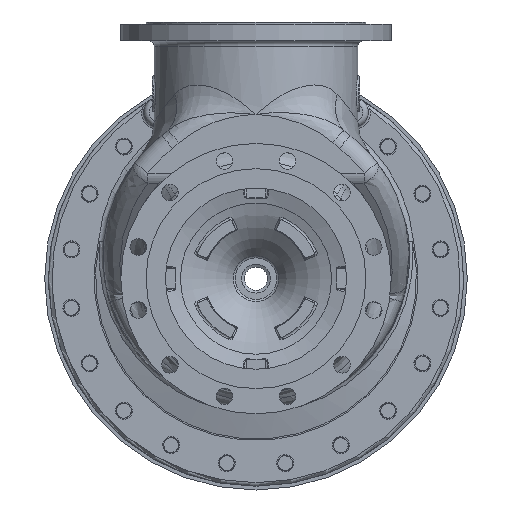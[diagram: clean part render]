
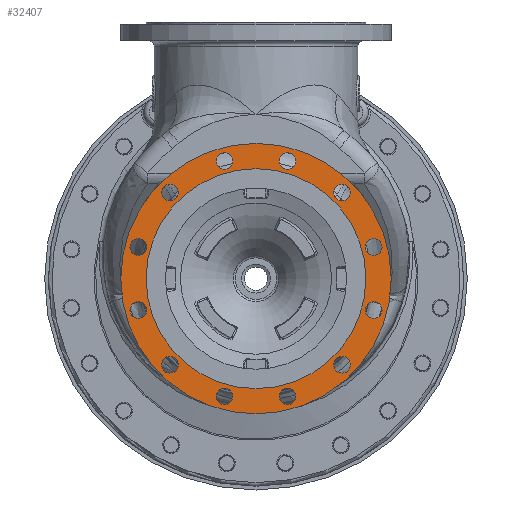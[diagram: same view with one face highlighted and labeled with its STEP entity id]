
A CAD part, front view. The second image highlights one B-rep face of the part: STEP entity #32407.
In plain terms, the highlighted planar face has unit normal (0, -1, 0) as drawn and (0, 0, -1) by its records, which use the part's own axes.
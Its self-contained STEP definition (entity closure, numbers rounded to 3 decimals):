
#6530=FACE_BOUND('',#9738,.T.);
#6531=FACE_BOUND('',#9739,.T.);
#6532=FACE_BOUND('',#9740,.T.);
#6533=FACE_BOUND('',#9741,.T.);
#6534=FACE_BOUND('',#9742,.T.);
#6535=FACE_BOUND('',#9743,.T.);
#6536=FACE_BOUND('',#9744,.T.);
#6537=FACE_BOUND('',#9745,.T.);
#6538=FACE_BOUND('',#9746,.T.);
#6539=FACE_BOUND('',#9747,.T.);
#6540=FACE_BOUND('',#9748,.T.);
#6541=FACE_BOUND('',#9749,.T.);
#6542=FACE_BOUND('',#9750,.T.);
#7796=FACE_OUTER_BOUND('',#9737,.T.);
#9737=EDGE_LOOP('',(#27538));
#9738=EDGE_LOOP('',(#27539));
#9739=EDGE_LOOP('',(#27540));
#9740=EDGE_LOOP('',(#27541));
#9741=EDGE_LOOP('',(#27542));
#9742=EDGE_LOOP('',(#27543));
#9743=EDGE_LOOP('',(#27544));
#9744=EDGE_LOOP('',(#27545));
#9745=EDGE_LOOP('',(#27546));
#9746=EDGE_LOOP('',(#27547));
#9747=EDGE_LOOP('',(#27548));
#9748=EDGE_LOOP('',(#27549));
#9749=EDGE_LOOP('',(#27550));
#9750=EDGE_LOOP('',(#27551));
#12304=CIRCLE('',#35971,14.);
#12306=CIRCLE('',#35974,14.);
#12308=CIRCLE('',#35977,14.);
#12310=CIRCLE('',#35980,14.);
#12312=CIRCLE('',#35983,14.);
#12314=CIRCLE('',#35986,14.);
#12316=CIRCLE('',#35989,14.);
#12318=CIRCLE('',#35992,14.);
#12320=CIRCLE('',#35995,14.);
#12322=CIRCLE('',#35998,14.);
#12324=CIRCLE('',#36001,14.);
#12326=CIRCLE('',#36004,14.);
#12369=CIRCLE('',#36052,185.);
#12371=CIRCLE('',#36055,227.5);
#15148=VERTEX_POINT('',#71508);
#15150=VERTEX_POINT('',#71514);
#15152=VERTEX_POINT('',#71520);
#15154=VERTEX_POINT('',#71526);
#15156=VERTEX_POINT('',#71532);
#15158=VERTEX_POINT('',#71538);
#15160=VERTEX_POINT('',#71544);
#15162=VERTEX_POINT('',#71550);
#15164=VERTEX_POINT('',#71556);
#15166=VERTEX_POINT('',#71562);
#15168=VERTEX_POINT('',#71568);
#15170=VERTEX_POINT('',#71574);
#15217=VERTEX_POINT('',#71967);
#15219=VERTEX_POINT('',#71973);
#19426=EDGE_CURVE('',#15148,#15148,#12304,.T.);
#19429=EDGE_CURVE('',#15150,#15150,#12306,.T.);
#19432=EDGE_CURVE('',#15152,#15152,#12308,.T.);
#19435=EDGE_CURVE('',#15154,#15154,#12310,.T.);
#19438=EDGE_CURVE('',#15156,#15156,#12312,.T.);
#19441=EDGE_CURVE('',#15158,#15158,#12314,.T.);
#19444=EDGE_CURVE('',#15160,#15160,#12316,.T.);
#19447=EDGE_CURVE('',#15162,#15162,#12318,.T.);
#19450=EDGE_CURVE('',#15164,#15164,#12320,.T.);
#19453=EDGE_CURVE('',#15166,#15166,#12322,.T.);
#19456=EDGE_CURVE('',#15168,#15168,#12324,.T.);
#19459=EDGE_CURVE('',#15170,#15170,#12326,.T.);
#19512=EDGE_CURVE('',#15217,#15217,#12369,.T.);
#19515=EDGE_CURVE('',#15219,#15219,#12371,.T.);
#27538=ORIENTED_EDGE('',*,*,#19515,.F.);
#27539=ORIENTED_EDGE('',*,*,#19426,.T.);
#27540=ORIENTED_EDGE('',*,*,#19429,.T.);
#27541=ORIENTED_EDGE('',*,*,#19432,.T.);
#27542=ORIENTED_EDGE('',*,*,#19435,.T.);
#27543=ORIENTED_EDGE('',*,*,#19438,.T.);
#27544=ORIENTED_EDGE('',*,*,#19441,.T.);
#27545=ORIENTED_EDGE('',*,*,#19444,.T.);
#27546=ORIENTED_EDGE('',*,*,#19447,.T.);
#27547=ORIENTED_EDGE('',*,*,#19450,.T.);
#27548=ORIENTED_EDGE('',*,*,#19453,.T.);
#27549=ORIENTED_EDGE('',*,*,#19456,.T.);
#27550=ORIENTED_EDGE('',*,*,#19459,.T.);
#27551=ORIENTED_EDGE('',*,*,#19512,.F.);
#31054=PLANE('',#36054);
#32407=ADVANCED_FACE('',(#7796,#6530,#6531,#6532,#6533,#6534,#6535,#6536,
#6537,#6538,#6539,#6540,#6541,#6542),#31054,.T.);
#35971=AXIS2_PLACEMENT_3D('',#71509,#43235,#43236);
#35974=AXIS2_PLACEMENT_3D('',#71515,#43242,#43243);
#35977=AXIS2_PLACEMENT_3D('',#71521,#43249,#43250);
#35980=AXIS2_PLACEMENT_3D('',#71527,#43256,#43257);
#35983=AXIS2_PLACEMENT_3D('',#71533,#43263,#43264);
#35986=AXIS2_PLACEMENT_3D('',#71539,#43270,#43271);
#35989=AXIS2_PLACEMENT_3D('',#71545,#43277,#43278);
#35992=AXIS2_PLACEMENT_3D('',#71551,#43284,#43285);
#35995=AXIS2_PLACEMENT_3D('',#71557,#43291,#43292);
#35998=AXIS2_PLACEMENT_3D('',#71563,#43298,#43299);
#36001=AXIS2_PLACEMENT_3D('',#71569,#43305,#43306);
#36004=AXIS2_PLACEMENT_3D('',#71575,#43312,#43313);
#36052=AXIS2_PLACEMENT_3D('',#71968,#43412,#43413);
#36054=AXIS2_PLACEMENT_3D('',#71972,#43417,#43418);
#36055=AXIS2_PLACEMENT_3D('',#71974,#43419,#43420);
#43235=DIRECTION('center_axis',(0.,0.,1.));
#43236=DIRECTION('ref_axis',(-0.866,0.5,0.));
#43242=DIRECTION('center_axis',(0.,0.,1.));
#43243=DIRECTION('ref_axis',(-0.5,0.866,0.));
#43249=DIRECTION('center_axis',(0.,0.,1.));
#43250=DIRECTION('ref_axis',(0.,1.,0.));
#43256=DIRECTION('center_axis',(0.,0.,1.));
#43257=DIRECTION('ref_axis',(0.5,0.866,0.));
#43263=DIRECTION('center_axis',(0.,0.,1.));
#43264=DIRECTION('ref_axis',(0.866,0.5,0.));
#43270=DIRECTION('center_axis',(0.,0.,1.));
#43271=DIRECTION('ref_axis',(1.,0.,0.));
#43277=DIRECTION('center_axis',(0.,0.,1.));
#43278=DIRECTION('ref_axis',(0.866,-0.5,0.));
#43284=DIRECTION('center_axis',(0.,0.,1.));
#43285=DIRECTION('ref_axis',(0.5,-0.866,0.));
#43291=DIRECTION('center_axis',(0.,0.,1.));
#43292=DIRECTION('ref_axis',(0.,-1.,0.));
#43298=DIRECTION('center_axis',(0.,0.,1.));
#43299=DIRECTION('ref_axis',(-0.5,-0.866,0.));
#43305=DIRECTION('center_axis',(0.,0.,1.));
#43306=DIRECTION('ref_axis',(-0.866,-0.5,0.));
#43312=DIRECTION('center_axis',(0.,0.,1.));
#43313=DIRECTION('ref_axis',(-1.,0.,0.));
#43412=DIRECTION('center_axis',(0.,0.,-1.));
#43413=DIRECTION('ref_axis',(1.,0.,0.));
#43417=DIRECTION('center_axis',(0.,0.,-1.));
#43418=DIRECTION('ref_axis',(-1.,0.,0.));
#43419=DIRECTION('center_axis',(0.,0.,1.));
#43420=DIRECTION('ref_axis',(1.,0.,0.));
#71508=CARTESIAN_POINT('',(65.182,191.015,-345.25));
#71509=CARTESIAN_POINT('Origin',(53.058,198.015,-345.25));
#71514=CARTESIAN_POINT('',(151.957,132.833,-345.25));
#71515=CARTESIAN_POINT('Origin',(144.957,144.957,-345.25));
#71520=CARTESIAN_POINT('',(198.015,39.058,-345.25));
#71521=CARTESIAN_POINT('Origin',(198.015,53.058,-345.25));
#71526=CARTESIAN_POINT('',(191.015,-65.182,-345.25));
#71527=CARTESIAN_POINT('Origin',(198.015,-53.058,-345.25));
#71532=CARTESIAN_POINT('',(132.833,-151.957,-345.25));
#71533=CARTESIAN_POINT('Origin',(144.957,-144.957,-345.25));
#71538=CARTESIAN_POINT('',(39.058,-198.015,-345.25));
#71539=CARTESIAN_POINT('Origin',(53.058,-198.015,-345.25));
#71544=CARTESIAN_POINT('',(-65.182,-191.015,-345.25));
#71545=CARTESIAN_POINT('Origin',(-53.058,-198.015,-345.25));
#71550=CARTESIAN_POINT('',(-151.957,-132.833,-345.25));
#71551=CARTESIAN_POINT('Origin',(-144.957,-144.957,-345.25));
#71556=CARTESIAN_POINT('',(-198.015,-39.058,-345.25));
#71557=CARTESIAN_POINT('Origin',(-198.015,-53.058,-345.25));
#71562=CARTESIAN_POINT('',(-191.015,65.182,-345.25));
#71563=CARTESIAN_POINT('Origin',(-198.015,53.058,-345.25));
#71568=CARTESIAN_POINT('',(-132.833,151.957,-345.25));
#71569=CARTESIAN_POINT('Origin',(-144.957,144.957,-345.25));
#71574=CARTESIAN_POINT('',(-39.058,198.015,-345.25));
#71575=CARTESIAN_POINT('Origin',(-53.058,198.015,-345.25));
#71967=CARTESIAN_POINT('',(-185.,0.,-345.25));
#71968=CARTESIAN_POINT('Origin',(0.,0.,-345.25));
#71972=CARTESIAN_POINT('Origin',(0.,0.,-345.25));
#71973=CARTESIAN_POINT('',(-227.5,0.,-345.25));
#71974=CARTESIAN_POINT('Origin',(0.,0.,-345.25));
